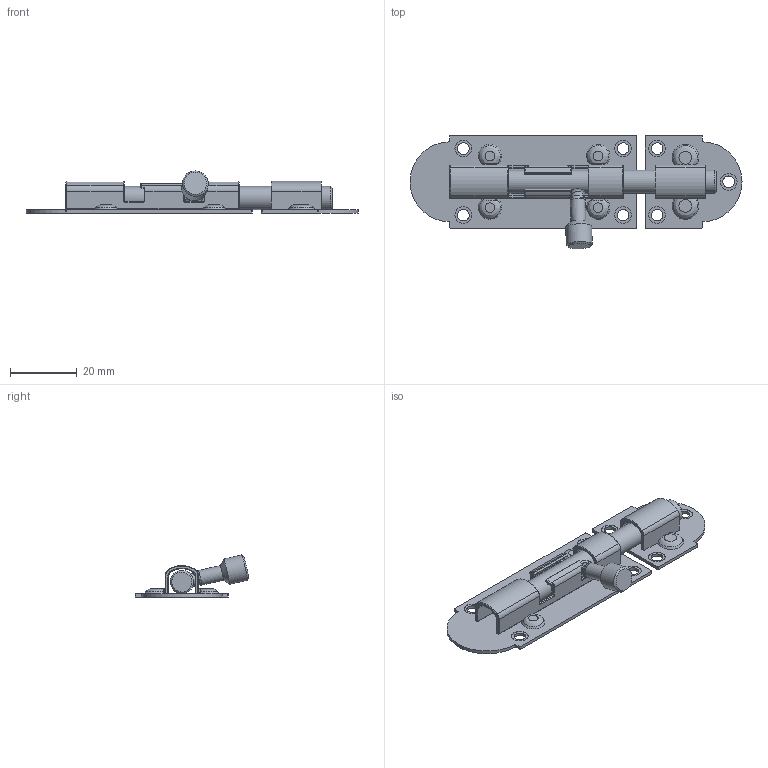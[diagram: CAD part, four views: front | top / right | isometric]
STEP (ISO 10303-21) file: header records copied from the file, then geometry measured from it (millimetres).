
FILE_DESCRIPTION(/* description */ (''),/* implementation_level */ '2;1');
FILE_NAME(/* name */ '\\NAS\db20\ODS3-4\DR_ODS3-4.stp',/* time_stamp */ '2017-09-04T08:55:17+09:00',/* author */ ('user'),/* organization */ (''),/* preprocessor_version */ 'ST-DEVELOPER v15.6',/* originating_system */ 'Autodesk Inventor 2015',/* authorisation */ '');
FILE_SCHEMA (('AUTOMOTIVE_DESIGN { 1 0 10303 214 3 1 1 }'));
Length unit declared in the file: millimetre
Products named in the file (4): DR_ODS3-4-BR; DR_ODS3-4-C; DR_ODS3-4-P; DR_ODS3-4
Bounding box: 99.72 x 34.12 x 12.65 mm (x, y, z)
Volume: 6875.3 mm3; surface area: 10183.2 mm2
Topology: 5 solids, 5 shells, 573 faces, 1401 edges, 843 vertices
Faces by surface type: cylinder 190, plane 134, bspline 111, torus 82, sphere 40, cone 16
Full cylindrical faces by diameter (mm): 3.5 x7, 4 x1, 4.5 x1, 5 x7, 7 x1, 7.8 x1
Entity records: 26765 total; most frequent: CARTESIAN_POINT 13824, ORIENTED_EDGE 2728, DIRECTION 2632, EDGE_CURVE 1364, AXIS2_PLACEMENT_3D 1087, VERTEX_POINT 835, EDGE_LOOP 635, CIRCLE 618
